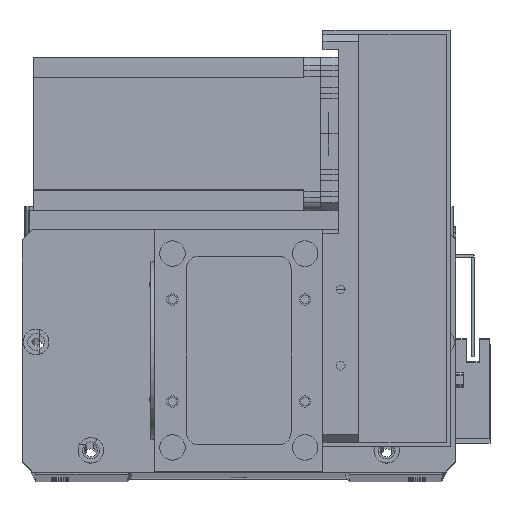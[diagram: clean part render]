
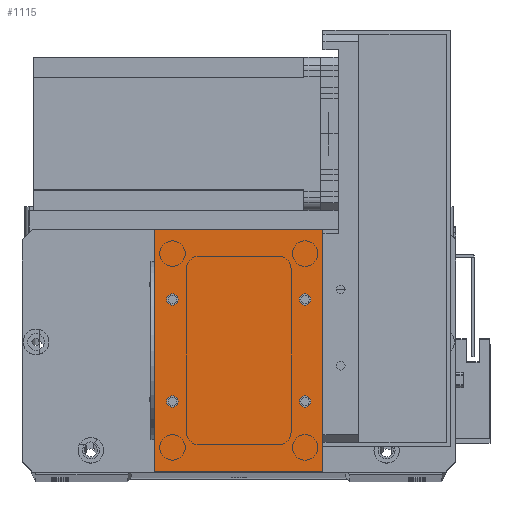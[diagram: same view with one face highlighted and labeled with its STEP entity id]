
A CAD part, top view. The second image highlights one B-rep face of the part: STEP entity #1115.
In plain terms, the highlighted planar face has unit normal (0, 0, 1).
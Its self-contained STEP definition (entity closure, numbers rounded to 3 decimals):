
#67 = DIRECTION ( 'NONE',  ( 1., 0., 0. ) ) ;
#397 = ORIENTED_EDGE ( 'NONE', *, *, #3229, .T. ) ;
#410 = CARTESIAN_POINT ( 'NONE',  ( 0., 0., 2. ) ) ;
#871 = EDGE_CURVE ( 'NONE', #30921, #1161, #8874, .T. ) ;
#1115 = ADVANCED_FACE ( 'NONE', ( #8492, #3424, #22576, #21769, #9251 ), #9267, .F. ) ;
#1161 = VERTEX_POINT ( 'NONE', #13271 ) ;
#1327 = DIRECTION ( 'NONE',  ( 1., 0., 0. ) ) ;
#1711 = VERTEX_POINT ( 'NONE', #26983 ) ;
#2279 = ORIENTED_EDGE ( 'NONE', *, *, #16430, .T. ) ;
#2389 = CARTESIAN_POINT ( 'NONE',  ( 61.25, 27.5, 2. ) ) ;
#2554 = VECTOR ( 'NONE', #19688, 1000. ) ;
#2605 = ORIENTED_EDGE ( 'NONE', *, *, #871, .F. ) ;
#3229 = EDGE_CURVE ( 'NONE', #10811, #22351, #27153, .T. ) ;
#3422 = AXIS2_PLACEMENT_3D ( 'NONE', #5141, #3982, #3521 ) ;
#3424 = FACE_BOUND ( 'NONE', #17180, .T. ) ;
#3521 = DIRECTION ( 'NONE',  ( -1., 0., 0. ) ) ;
#3639 = DIRECTION ( 'NONE',  ( 0., 0., 1. ) ) ;
#3869 = AXIS2_PLACEMENT_3D ( 'NONE', #5713, #23191, #8229 ) ;
#3969 = CARTESIAN_POINT ( 'NONE',  ( 0., 95., 2. ) ) ;
#3982 = DIRECTION ( 'NONE',  ( 0., 0., -1. ) ) ;
#4362 = VERTEX_POINT ( 'NONE', #18720 ) ;
#5091 = DIRECTION ( 'NONE',  ( 0., 0., 1. ) ) ;
#5141 = CARTESIAN_POINT ( 'NONE',  ( 0., 0., 2. ) ) ;
#5503 = AXIS2_PLACEMENT_3D ( 'NONE', #31285, #16306, #1327 ) ;
#5620 = AXIS2_PLACEMENT_3D ( 'NONE', #26394, #11404, #28918 ) ;
#5713 = CARTESIAN_POINT ( 'NONE',  ( 59., 67.5, 2. ) ) ;
#5723 = AXIS2_PLACEMENT_3D ( 'NONE', #16198, #16642, #16977 ) ;
#6078 = EDGE_CURVE ( 'NONE', #27383, #28520, #7019, .T. ) ;
#6983 = CIRCLE ( 'NONE', #5503, 2.25 ) ;
#7019 = CIRCLE ( 'NONE', #5620, 2.25 ) ;
#7164 = VECTOR ( 'NONE', #27061, 1000. ) ;
#8229 = DIRECTION ( 'NONE',  ( 1., 0., 0. ) ) ;
#8263 = EDGE_LOOP ( 'NONE', ( #2605, #13906 ) ) ;
#8492 = FACE_BOUND ( 'NONE', #8263, .T. ) ;
#8532 = EDGE_CURVE ( 'NONE', #24105, #9853, #11158, .T. ) ;
#8874 = CIRCLE ( 'NONE', #5723, 2.25 ) ;
#9251 = FACE_OUTER_BOUND ( 'NONE', #21725, .T. ) ;
#9267 = PLANE ( 'NONE',  #3422 ) ;
#9346 = CARTESIAN_POINT ( 'NONE',  ( 66., 0., 2. ) ) ;
#9853 = VERTEX_POINT ( 'NONE', #14145 ) ;
#10227 = CIRCLE ( 'NONE', #17953, 2.25 ) ;
#10382 = LINE ( 'NONE', #3969, #29551 ) ;
#10585 = ORIENTED_EDGE ( 'NONE', *, *, #8532, .F. ) ;
#10811 = VERTEX_POINT ( 'NONE', #410 ) ;
#11158 = CIRCLE ( 'NONE', #3869, 2.25 ) ;
#11404 = DIRECTION ( 'NONE',  ( 0., 0., 1. ) ) ;
#12442 = VERTEX_POINT ( 'NONE', #12782 ) ;
#12773 = ORIENTED_EDGE ( 'NONE', *, *, #6078, .F. ) ;
#12782 = CARTESIAN_POINT ( 'NONE',  ( 66., 95., 2. ) ) ;
#13271 = CARTESIAN_POINT ( 'NONE',  ( 4.75, 67.5, 2. ) ) ;
#13339 = AXIS2_PLACEMENT_3D ( 'NONE', #30037, #15062, #67 ) ;
#13560 = AXIS2_PLACEMENT_3D ( 'NONE', #18587, #3639, #21087 ) ;
#13906 = ORIENTED_EDGE ( 'NONE', *, *, #17774, .F. ) ;
#14007 = DIRECTION ( 'NONE',  ( -1., 0., 0. ) ) ;
#14145 = CARTESIAN_POINT ( 'NONE',  ( 61.25, 67.5, 2. ) ) ;
#14402 = CARTESIAN_POINT ( 'NONE',  ( 56.75, 67.5, 2. ) ) ;
#14486 = DIRECTION ( 'NONE',  ( 0., -1., 0. ) ) ;
#14855 = CARTESIAN_POINT ( 'NONE',  ( 59., 27.5, 2. ) ) ;
#14898 = AXIS2_PLACEMENT_3D ( 'NONE', #20055, #5091, #22567 ) ;
#15062 = DIRECTION ( 'NONE',  ( 0., 0., 1. ) ) ;
#15101 = EDGE_CURVE ( 'NONE', #29939, #1711, #6983, .T. ) ;
#15852 = LINE ( 'NONE', #32151, #2554 ) ;
#16198 = CARTESIAN_POINT ( 'NONE',  ( 7., 67.5, 2. ) ) ;
#16306 = DIRECTION ( 'NONE',  ( 0., 0., 1. ) ) ;
#16430 = EDGE_CURVE ( 'NONE', #4362, #10811, #23334, .T. ) ;
#16642 = DIRECTION ( 'NONE',  ( 0., 0., 1. ) ) ;
#16679 = VECTOR ( 'NONE', #14486, 1000. ) ;
#16714 = CARTESIAN_POINT ( 'NONE',  ( 9.25, 27.5, 2. ) ) ;
#16977 = DIRECTION ( 'NONE',  ( 1., 0., 0. ) ) ;
#17180 = EDGE_LOOP ( 'NONE', ( #24224, #10585 ) ) ;
#17359 = DIRECTION ( 'NONE',  ( 1., 0., 0. ) ) ;
#17437 = EDGE_CURVE ( 'NONE', #22351, #12442, #15852, .T. ) ;
#17605 = ORIENTED_EDGE ( 'NONE', *, *, #17437, .T. ) ;
#17774 = EDGE_CURVE ( 'NONE', #1161, #30921, #24032, .T. ) ;
#17953 = AXIS2_PLACEMENT_3D ( 'NONE', #14855, #32301, #17359 ) ;
#17994 = EDGE_LOOP ( 'NONE', ( #12773, #23634 ) ) ;
#18150 = CIRCLE ( 'NONE', #13339, 2.25 ) ;
#18587 = CARTESIAN_POINT ( 'NONE',  ( 7., 67.5, 2. ) ) ;
#18720 = CARTESIAN_POINT ( 'NONE',  ( 0., 95., 2. ) ) ;
#19013 = EDGE_LOOP ( 'NONE', ( #29187, #24237 ) ) ;
#19688 = DIRECTION ( 'NONE',  ( 0., 1., 0. ) ) ;
#20055 = CARTESIAN_POINT ( 'NONE',  ( 59., 67.5, 2. ) ) ;
#21087 = DIRECTION ( 'NONE',  ( 1., 0., 0. ) ) ;
#21725 = EDGE_LOOP ( 'NONE', ( #2279, #397, #17605, #26775 ) ) ;
#21769 = FACE_BOUND ( 'NONE', #19013, .T. ) ;
#22351 = VERTEX_POINT ( 'NONE', #9346 ) ;
#22567 = DIRECTION ( 'NONE',  ( 1., 0., 0. ) ) ;
#22576 = FACE_BOUND ( 'NONE', #17994, .T. ) ;
#23191 = DIRECTION ( 'NONE',  ( 0., 0., 1. ) ) ;
#23334 = LINE ( 'NONE', #29468, #16679 ) ;
#23634 = ORIENTED_EDGE ( 'NONE', *, *, #27368, .F. ) ;
#24032 = CIRCLE ( 'NONE', #13560, 2.25 ) ;
#24105 = VERTEX_POINT ( 'NONE', #14402 ) ;
#24224 = ORIENTED_EDGE ( 'NONE', *, *, #30609, .F. ) ;
#24237 = ORIENTED_EDGE ( 'NONE', *, *, #25674, .F. ) ;
#25674 = EDGE_CURVE ( 'NONE', #1711, #29939, #18150, .T. ) ;
#26394 = CARTESIAN_POINT ( 'NONE',  ( 59., 27.5, 2. ) ) ;
#26775 = ORIENTED_EDGE ( 'NONE', *, *, #31043, .T. ) ;
#26947 = CARTESIAN_POINT ( 'NONE',  ( 0., 0., 2. ) ) ;
#26983 = CARTESIAN_POINT ( 'NONE',  ( 4.75, 27.5, 2. ) ) ;
#27061 = DIRECTION ( 'NONE',  ( 1., 0., 0. ) ) ;
#27153 = LINE ( 'NONE', #26947, #7164 ) ;
#27368 = EDGE_CURVE ( 'NONE', #28520, #27383, #10227, .T. ) ;
#27383 = VERTEX_POINT ( 'NONE', #2389 ) ;
#28033 = CIRCLE ( 'NONE', #14898, 2.25 ) ;
#28311 = CARTESIAN_POINT ( 'NONE',  ( 56.75, 27.5, 2. ) ) ;
#28520 = VERTEX_POINT ( 'NONE', #28311 ) ;
#28692 = CARTESIAN_POINT ( 'NONE',  ( 9.25, 67.5, 2. ) ) ;
#28918 = DIRECTION ( 'NONE',  ( 1., 0., 0. ) ) ;
#29187 = ORIENTED_EDGE ( 'NONE', *, *, #15101, .F. ) ;
#29468 = CARTESIAN_POINT ( 'NONE',  ( 0., 0., 2. ) ) ;
#29551 = VECTOR ( 'NONE', #14007, 1000. ) ;
#29939 = VERTEX_POINT ( 'NONE', #16714 ) ;
#30037 = CARTESIAN_POINT ( 'NONE',  ( 7., 27.5, 2. ) ) ;
#30609 = EDGE_CURVE ( 'NONE', #9853, #24105, #28033, .T. ) ;
#30921 = VERTEX_POINT ( 'NONE', #28692 ) ;
#31043 = EDGE_CURVE ( 'NONE', #12442, #4362, #10382, .T. ) ;
#31285 = CARTESIAN_POINT ( 'NONE',  ( 7., 27.5, 2. ) ) ;
#32151 = CARTESIAN_POINT ( 'NONE',  ( 66., 0., 2. ) ) ;
#32301 = DIRECTION ( 'NONE',  ( 0., 0., 1. ) ) ;
